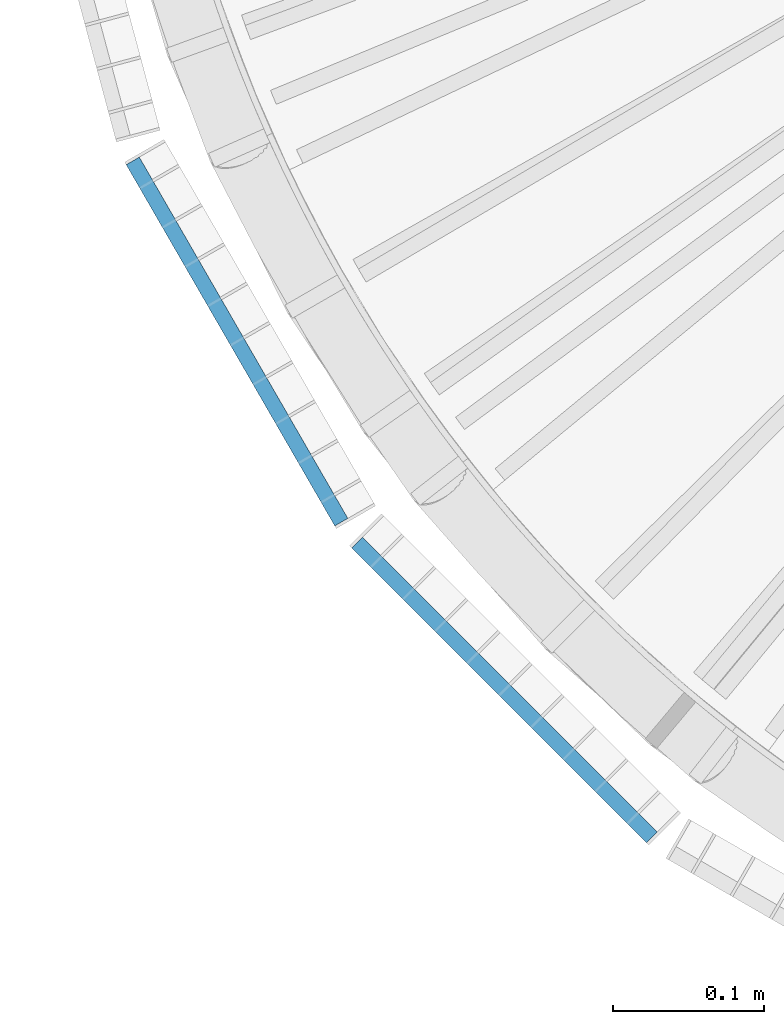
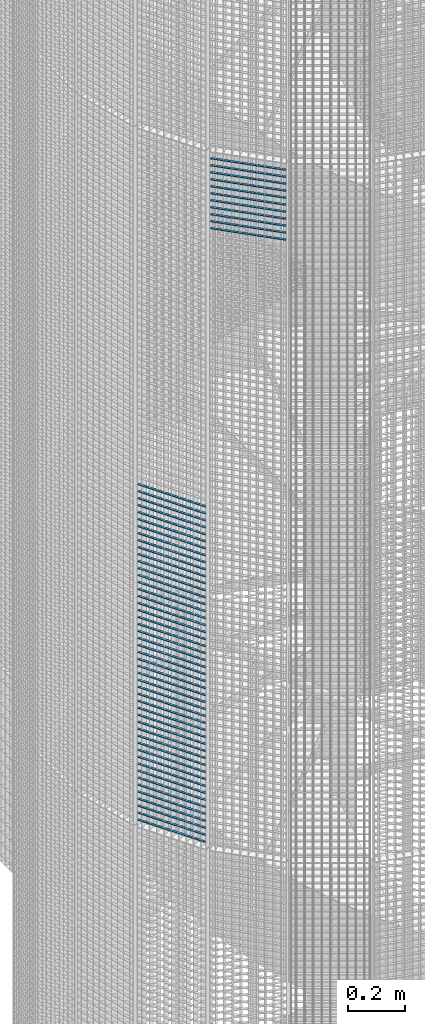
# One storey, part 351 of 1148: 60 beams, 2 elements without a shape of their own.
"""IFC2X3 building model written with IfcOpenShell, lengths in millimetres."""

from ifc_helpers import new_model, si_unit, frame, origin_with_axes, origin_2d_with_axis, place, context, subcontext, project, spatial, rectangle, extrude, material, type_object, element, aggregate, save


model = new_model("IFC2X3")

# Units and contexts
model_context = context("Model", 3, precision=1e-05, world=origin_with_axes())
body_context = subcontext(model_context, "Body", "Model", "MODEL_VIEW")
ifc_project = project(units=[si_unit("LENGTHUNIT", "METRE", prefix="MILLI"), si_unit("AREAUNIT", "SQUARE_METRE"), si_unit("VOLUMEUNIT", "CUBIC_METRE"), si_unit("MASSUNIT", "GRAM", prefix="KILO"), si_unit("TIMEUNIT", "SECOND"), si_unit("PLANEANGLEUNIT", "RADIAN"), si_unit("SOLIDANGLEUNIT", "STERADIAN"), si_unit("THERMODYNAMICTEMPERATUREUNIT", "DEGREE_CELSIUS"), si_unit("LUMINOUSINTENSITYUNIT", "LUMEN")], contexts=[model_context])

# Site, building, storey
site_placement = place(None, origin_with_axes())
site = spatial("IfcSite", under=ifc_project, at=site_placement, Name="Undefined", CompositionType="ELEMENT")
building_placement = place(site_placement, origin_with_axes())
building = spatial("IfcBuilding", under=site, at=building_placement, Name="Undefined", CompositionType="ELEMENT")
storey_placement = place(building_placement, origin_with_axes())
storey = spatial("IfcBuildingStorey", under=building, at=storey_placement, Name="Undefined", CompositionType="ELEMENT", Elevation=0.0)

# Assembly, beams
assembly_1_placement = place(storey_placement, origin_with_axes())
assembly_1 = element("IfcElementAssembly", 1, at=assembly_1_placement, inside=storey, Name="BORDURE", AssemblyPlace="NOTDEFINED", PredefinedType="NOTDEFINED")
ifc_material = material(Name="STEEL/S235JR")
beam_type = type_object("IfcBeamType", Name="PL2*10", PredefinedType="NOTDEFINED")
beam_1_placement = place(assembly_1_placement, frame((20704.6960350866, -676.248044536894, 7470.0), z_axis=(-0.866025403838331, -0.499999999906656, 0.0), x_axis=(-0.49999999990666, 0.866025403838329, 0.0)))
beam_1 = element("IfcBeam", 2, at=beam_1_placement, type_object=beam_type, material=ifc_material, Name="ENTRETOISE", context=body_context, shape_type="SweptSolid", body=[
    extrude(rectangle(XDim=2.0, YDim=10.0, at=origin_2d_with_axis()), frame((275.999999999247, 9.09494701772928e-13, 1.53210777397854e-14), z_axis=(-1.0, 0.0, 0.0), x_axis=(0.0, -1.0, 0.0)), (0.0, 0.0, 1.0), 276.0),
])
beam_2_placement = place(assembly_1_placement, frame((20704.6960350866, -676.248044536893, 7440.0), z_axis=(-0.866025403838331, -0.499999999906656, 0.0), x_axis=(-0.49999999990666, 0.866025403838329, 0.0)))
beam_2 = element("IfcBeam", 3, at=beam_2_placement, type_object=beam_type, material=ifc_material, Name="ENTRETOISE", context=body_context, shape_type="SweptSolid", body=[
    extrude(rectangle(XDim=2.0, YDim=10.0, at=origin_2d_with_axis()), frame((275.999999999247, 9.09494701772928e-13, 1.53210777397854e-14), z_axis=(-1.0, 0.0, 0.0), x_axis=(0.0, -1.0, 0.0)), (0.0, 0.0, 1.0), 276.0),
])
beam_3_placement = place(assembly_1_placement, frame((20704.6960350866, -676.248044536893, 7410.0), z_axis=(-0.866025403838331, -0.499999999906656, 0.0), x_axis=(-0.49999999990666, 0.866025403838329, 0.0)))
beam_3 = element("IfcBeam", 4, at=beam_3_placement, type_object=beam_type, material=ifc_material, Name="ENTRETOISE", context=body_context, shape_type="SweptSolid", body=[
    extrude(rectangle(XDim=2.0, YDim=10.0, at=origin_2d_with_axis()), frame((275.999999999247, 9.09494701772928e-13, 1.53210777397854e-14), z_axis=(-1.0, 0.0, 0.0), x_axis=(0.0, -1.0, 0.0)), (0.0, 0.0, 1.0), 276.0),
])
beam_4_placement = place(assembly_1_placement, frame((20704.6960350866, -676.248044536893, 7380.0), z_axis=(-0.866025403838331, -0.499999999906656, 0.0), x_axis=(-0.49999999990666, 0.866025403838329, 0.0)))
beam_4 = element("IfcBeam", 5, at=beam_4_placement, type_object=beam_type, material=ifc_material, Name="ENTRETOISE", context=body_context, shape_type="SweptSolid", body=[
    extrude(rectangle(XDim=2.0, YDim=10.0, at=origin_2d_with_axis()), frame((275.999999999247, 9.09494701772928e-13, 1.53210777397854e-14), z_axis=(-1.0, 0.0, 0.0), x_axis=(0.0, -1.0, 0.0)), (0.0, 0.0, 1.0), 276.0),
])
beam_5_placement = place(assembly_1_placement, frame((20704.6960350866, -676.248044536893, 7350.0), z_axis=(-0.866025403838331, -0.499999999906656, 0.0), x_axis=(-0.49999999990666, 0.866025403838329, 0.0)))
beam_5 = element("IfcBeam", 6, at=beam_5_placement, type_object=beam_type, material=ifc_material, Name="ENTRETOISE", context=body_context, shape_type="SweptSolid", body=[
    extrude(rectangle(XDim=2.0, YDim=10.0, at=origin_2d_with_axis()), frame((275.999999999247, 9.09494701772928e-13, 1.53210777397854e-14), z_axis=(-1.0, 0.0, 0.0), x_axis=(0.0, -1.0, 0.0)), (0.0, 0.0, 1.0), 276.0),
])
beam_6_placement = place(assembly_1_placement, frame((20704.6960350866, -676.248044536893, 7320.0), z_axis=(-0.866025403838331, -0.499999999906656, 0.0), x_axis=(-0.49999999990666, 0.866025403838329, 0.0)))
beam_6 = element("IfcBeam", 7, at=beam_6_placement, type_object=beam_type, material=ifc_material, Name="ENTRETOISE", context=body_context, shape_type="SweptSolid", body=[
    extrude(rectangle(XDim=2.0, YDim=10.0, at=origin_2d_with_axis()), frame((275.999999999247, 9.09494701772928e-13, 1.53210777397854e-14), z_axis=(-1.0, 0.0, 0.0), x_axis=(0.0, -1.0, 0.0)), (0.0, 0.0, 1.0), 276.0),
])
beam_7_placement = place(assembly_1_placement, frame((20704.6960350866, -676.248044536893, 7290.0), z_axis=(-0.866025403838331, -0.499999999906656, 0.0), x_axis=(-0.49999999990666, 0.866025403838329, 0.0)))
beam_7 = element("IfcBeam", 8, at=beam_7_placement, type_object=beam_type, material=ifc_material, Name="ENTRETOISE", context=body_context, shape_type="SweptSolid", body=[
    extrude(rectangle(XDim=2.0, YDim=10.0, at=origin_2d_with_axis()), frame((275.999999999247, 9.09494701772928e-13, 1.53210777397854e-14), z_axis=(-1.0, 0.0, 0.0), x_axis=(0.0, -1.0, 0.0)), (0.0, 0.0, 1.0), 276.0),
])
beam_8_placement = place(assembly_1_placement, frame((20704.6960350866, -676.248044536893, 7260.0), z_axis=(-0.866025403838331, -0.499999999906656, 0.0), x_axis=(-0.49999999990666, 0.866025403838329, 0.0)))
beam_8 = element("IfcBeam", 9, at=beam_8_placement, type_object=beam_type, material=ifc_material, Name="ENTRETOISE", context=body_context, shape_type="SweptSolid", body=[
    extrude(rectangle(XDim=2.0, YDim=10.0, at=origin_2d_with_axis()), frame((275.999999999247, 9.09494701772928e-13, 1.53210777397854e-14), z_axis=(-1.0, 0.0, 0.0), x_axis=(0.0, -1.0, 0.0)), (0.0, 0.0, 1.0), 276.0),
])
beam_9_placement = place(assembly_1_placement, frame((20704.6960350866, -676.248044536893, 7230.0), z_axis=(-0.866025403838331, -0.499999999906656, 0.0), x_axis=(-0.49999999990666, 0.866025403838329, 0.0)))
beam_9 = element("IfcBeam", 10, at=beam_9_placement, type_object=beam_type, material=ifc_material, Name="ENTRETOISE", context=body_context, shape_type="SweptSolid", body=[
    extrude(rectangle(XDim=2.0, YDim=10.0, at=origin_2d_with_axis()), frame((275.999999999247, 9.09494701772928e-13, 1.53210777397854e-14), z_axis=(-1.0, 0.0, 0.0), x_axis=(0.0, -1.0, 0.0)), (0.0, 0.0, 1.0), 276.0),
])
beam_10_placement = place(assembly_1_placement, frame((20704.6960350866, -676.248044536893, 7200.0), z_axis=(-0.866025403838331, -0.499999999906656, 0.0), x_axis=(-0.49999999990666, 0.866025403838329, 0.0)))
beam_10 = element("IfcBeam", 11, at=beam_10_placement, type_object=beam_type, material=ifc_material, Name="ENTRETOISE", context=body_context, shape_type="SweptSolid", body=[
    extrude(rectangle(XDim=2.0, YDim=10.0, at=origin_2d_with_axis()), frame((275.999999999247, 9.09494701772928e-13, 1.53210777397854e-14), z_axis=(-1.0, 0.0, 0.0), x_axis=(0.0, -1.0, 0.0)), (0.0, 0.0, 1.0), 276.0),
])
beam_11_placement = place(assembly_1_placement, frame((20704.6960350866, -676.248044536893, 7170.0), z_axis=(-0.866025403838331, -0.499999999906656, 0.0), x_axis=(-0.49999999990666, 0.866025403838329, 0.0)))
beam_11 = element("IfcBeam", 12, at=beam_11_placement, type_object=beam_type, material=ifc_material, Name="ENTRETOISE", context=body_context, shape_type="SweptSolid", body=[
    extrude(rectangle(XDim=2.0, YDim=10.0, at=origin_2d_with_axis()), frame((275.999999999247, 9.09494701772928e-13, 1.53210777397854e-14), z_axis=(-1.0, 0.0, 0.0), x_axis=(0.0, -1.0, 0.0)), (0.0, 0.0, 1.0), 276.0),
])
beam_12_placement = place(assembly_1_placement, frame((20704.6960350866, -676.248044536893, 7140.0), z_axis=(-0.866025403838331, -0.499999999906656, 0.0), x_axis=(-0.49999999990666, 0.866025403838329, 0.0)))
beam_12 = element("IfcBeam", 13, at=beam_12_placement, type_object=beam_type, material=ifc_material, Name="ENTRETOISE", context=body_context, shape_type="SweptSolid", body=[
    extrude(rectangle(XDim=2.0, YDim=10.0, at=origin_2d_with_axis()), frame((275.999999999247, 9.09494701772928e-13, 1.53210777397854e-14), z_axis=(-1.0, 0.0, 0.0), x_axis=(0.0, -1.0, 0.0)), (0.0, 0.0, 1.0), 276.0),
])
beam_13_placement = place(assembly_1_placement, frame((20704.6960350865, -676.248044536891, 6720.0), z_axis=(-0.866025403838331, -0.499999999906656, 0.0), x_axis=(-0.49999999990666, 0.866025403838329, 0.0)))
beam_13 = element("IfcBeam", 14, at=beam_13_placement, type_object=beam_type, material=ifc_material, Name="ENTRETOISE", context=body_context, shape_type="SweptSolid", body=[
    extrude(rectangle(XDim=2.0, YDim=10.0, at=origin_2d_with_axis()), frame((275.999999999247, 9.09494701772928e-13, 1.53210777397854e-14), z_axis=(-1.0, 0.0, 0.0), x_axis=(0.0, -1.0, 0.0)), (0.0, 0.0, 1.0), 276.0),
])
beam_14_placement = place(assembly_1_placement, frame((20704.6960350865, -676.248044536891, 6690.0), z_axis=(-0.866025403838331, -0.499999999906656, 0.0), x_axis=(-0.49999999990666, 0.866025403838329, 0.0)))
beam_14 = element("IfcBeam", 15, at=beam_14_placement, type_object=beam_type, material=ifc_material, Name="ENTRETOISE", context=body_context, shape_type="SweptSolid", body=[
    extrude(rectangle(XDim=2.0, YDim=10.0, at=origin_2d_with_axis()), frame((275.999999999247, 9.09494701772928e-13, 1.53210777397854e-14), z_axis=(-1.0, 0.0, 0.0), x_axis=(0.0, -1.0, 0.0)), (0.0, 0.0, 1.0), 276.0),
])
beam_15_placement = place(assembly_1_placement, frame((20704.6960350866, -676.248044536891, 6750.0), z_axis=(-0.866025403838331, -0.499999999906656, 0.0), x_axis=(-0.49999999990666, 0.866025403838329, 0.0)))
beam_15 = element("IfcBeam", 16, at=beam_15_placement, type_object=beam_type, material=ifc_material, Name="ENTRETOISE", context=body_context, shape_type="SweptSolid", body=[
    extrude(rectangle(XDim=2.0, YDim=10.0, at=origin_2d_with_axis()), frame((275.999999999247, 9.09494701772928e-13, 1.53210777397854e-14), z_axis=(-1.0, 0.0, 0.0), x_axis=(0.0, -1.0, 0.0)), (0.0, 0.0, 1.0), 276.0),
])
beam_16_placement = place(assembly_1_placement, frame((20704.6960350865, -676.248044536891, 6660.0), z_axis=(-0.866025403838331, -0.499999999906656, 0.0), x_axis=(-0.49999999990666, 0.866025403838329, 0.0)))
beam_16 = element("IfcBeam", 17, at=beam_16_placement, type_object=beam_type, material=ifc_material, Name="ENTRETOISE", context=body_context, shape_type="SweptSolid", body=[
    extrude(rectangle(XDim=2.0, YDim=10.0, at=origin_2d_with_axis()), frame((275.999999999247, 9.09494701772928e-13, 1.53210777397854e-14), z_axis=(-1.0, 0.0, 0.0), x_axis=(0.0, -1.0, 0.0)), (0.0, 0.0, 1.0), 276.0),
])
beam_17_placement = place(assembly_1_placement, frame((20704.6960350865, -676.248044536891, 6630.0), z_axis=(-0.866025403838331, -0.499999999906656, 0.0), x_axis=(-0.49999999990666, 0.866025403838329, 0.0)))
beam_17 = element("IfcBeam", 18, at=beam_17_placement, type_object=beam_type, material=ifc_material, Name="ENTRETOISE", context=body_context, shape_type="SweptSolid", body=[
    extrude(rectangle(XDim=2.0, YDim=10.0, at=origin_2d_with_axis()), frame((275.999999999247, 9.09494701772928e-13, 1.53210777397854e-14), z_axis=(-1.0, 0.0, 0.0), x_axis=(0.0, -1.0, 0.0)), (0.0, 0.0, 1.0), 276.0),
])
beam_18_placement = place(assembly_1_placement, frame((20704.6960350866, -676.248044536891, 6780.0), z_axis=(-0.866025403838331, -0.499999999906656, 0.0), x_axis=(-0.49999999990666, 0.866025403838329, 0.0)))
beam_18 = element("IfcBeam", 19, at=beam_18_placement, type_object=beam_type, material=ifc_material, Name="ENTRETOISE", context=body_context, shape_type="SweptSolid", body=[
    extrude(rectangle(XDim=2.0, YDim=10.0, at=origin_2d_with_axis()), frame((275.999999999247, 9.09494701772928e-13, 1.53210777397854e-14), z_axis=(-1.0, 0.0, 0.0), x_axis=(0.0, -1.0, 0.0)), (0.0, 0.0, 1.0), 276.0),
])
beam_19_placement = place(assembly_1_placement, frame((20704.6960350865, -676.248044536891, 6600.0), z_axis=(-0.866025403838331, -0.499999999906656, 0.0), x_axis=(-0.49999999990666, 0.866025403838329, 0.0)))
beam_19 = element("IfcBeam", 20, at=beam_19_placement, type_object=beam_type, material=ifc_material, Name="ENTRETOISE", context=body_context, shape_type="SweptSolid", body=[
    extrude(rectangle(XDim=2.0, YDim=10.0, at=origin_2d_with_axis()), frame((275.999999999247, 9.09494701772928e-13, 1.53210777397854e-14), z_axis=(-1.0, 0.0, 0.0), x_axis=(0.0, -1.0, 0.0)), (0.0, 0.0, 1.0), 276.0),
])
beam_20_placement = place(assembly_1_placement, frame((20704.6960350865, -676.248044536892, 6810.0), z_axis=(-0.866025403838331, -0.499999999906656, 0.0), x_axis=(-0.49999999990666, 0.866025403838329, 0.0)))
beam_20 = element("IfcBeam", 21, at=beam_20_placement, type_object=beam_type, material=ifc_material, Name="ENTRETOISE", context=body_context, shape_type="SweptSolid", body=[
    extrude(rectangle(XDim=2.0, YDim=10.0, at=origin_2d_with_axis()), frame((275.999999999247, 9.09494701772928e-13, 1.53210777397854e-14), z_axis=(-1.0, 0.0, 0.0), x_axis=(0.0, -1.0, 0.0)), (0.0, 0.0, 1.0), 276.0),
])
beam_21_placement = place(assembly_1_placement, frame((20704.6960350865, -676.248044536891, 6570.0), z_axis=(-0.866025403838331, -0.499999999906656, 0.0), x_axis=(-0.49999999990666, 0.866025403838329, 0.0)))
beam_21 = element("IfcBeam", 22, at=beam_21_placement, type_object=beam_type, material=ifc_material, Name="ENTRETOISE", context=body_context, shape_type="SweptSolid", body=[
    extrude(rectangle(XDim=2.0, YDim=10.0, at=origin_2d_with_axis()), frame((275.999999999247, 9.09494701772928e-13, 1.53210777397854e-14), z_axis=(-1.0, 0.0, 0.0), x_axis=(0.0, -1.0, 0.0)), (0.0, 0.0, 1.0), 276.0),
])
beam_22_placement = place(assembly_1_placement, frame((20704.6960350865, -676.248044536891, 6540.0), z_axis=(-0.866025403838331, -0.499999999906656, 0.0), x_axis=(-0.49999999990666, 0.866025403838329, 0.0)))
beam_22 = element("IfcBeam", 23, at=beam_22_placement, type_object=beam_type, material=ifc_material, Name="ENTRETOISE", context=body_context, shape_type="SweptSolid", body=[
    extrude(rectangle(XDim=2.0, YDim=10.0, at=origin_2d_with_axis()), frame((275.999999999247, 9.09494701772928e-13, 1.53210777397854e-14), z_axis=(-1.0, 0.0, 0.0), x_axis=(0.0, -1.0, 0.0)), (0.0, 0.0, 1.0), 276.0),
])
beam_23_placement = place(assembly_1_placement, frame((20704.6960350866, -676.248044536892, 6840.0), z_axis=(-0.866025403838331, -0.499999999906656, 0.0), x_axis=(-0.49999999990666, 0.866025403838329, 0.0)))
beam_23 = element("IfcBeam", 24, at=beam_23_placement, type_object=beam_type, material=ifc_material, Name="ENTRETOISE", context=body_context, shape_type="SweptSolid", body=[
    extrude(rectangle(XDim=2.0, YDim=10.0, at=origin_2d_with_axis()), frame((275.999999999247, 9.09494701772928e-13, 1.53210777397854e-14), z_axis=(-1.0, 0.0, 0.0), x_axis=(0.0, -1.0, 0.0)), (0.0, 0.0, 1.0), 276.0),
])
beam_24_placement = place(assembly_1_placement, frame((20704.6960350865, -676.248044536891, 6510.0), z_axis=(-0.866025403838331, -0.499999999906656, 0.0), x_axis=(-0.49999999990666, 0.866025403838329, 0.0)))
beam_24 = element("IfcBeam", 25, at=beam_24_placement, type_object=beam_type, material=ifc_material, Name="ENTRETOISE", context=body_context, shape_type="SweptSolid", body=[
    extrude(rectangle(XDim=2.0, YDim=10.0, at=origin_2d_with_axis()), frame((275.999999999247, 9.09494701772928e-13, 1.53210777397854e-14), z_axis=(-1.0, 0.0, 0.0), x_axis=(0.0, -1.0, 0.0)), (0.0, 0.0, 1.0), 276.0),
])
beam_25_placement = place(assembly_1_placement, frame((20704.6960350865, -676.248044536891, 6480.0), z_axis=(-0.866025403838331, -0.499999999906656, 0.0), x_axis=(-0.49999999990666, 0.866025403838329, 0.0)))
beam_25 = element("IfcBeam", 26, at=beam_25_placement, type_object=beam_type, material=ifc_material, Name="ENTRETOISE", context=body_context, shape_type="SweptSolid", body=[
    extrude(rectangle(XDim=2.0, YDim=10.0, at=origin_2d_with_axis()), frame((275.999999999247, 9.09494701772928e-13, 1.53210777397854e-14), z_axis=(-1.0, 0.0, 0.0), x_axis=(0.0, -1.0, 0.0)), (0.0, 0.0, 1.0), 276.0),
])
beam_26_placement = place(assembly_1_placement, frame((20704.6960350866, -676.248044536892, 6870.0), z_axis=(-0.866025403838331, -0.499999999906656, 0.0), x_axis=(-0.49999999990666, 0.866025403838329, 0.0)))
beam_26 = element("IfcBeam", 27, at=beam_26_placement, type_object=beam_type, material=ifc_material, Name="ENTRETOISE", context=body_context, shape_type="SweptSolid", body=[
    extrude(rectangle(XDim=2.0, YDim=10.0, at=origin_2d_with_axis()), frame((275.999999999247, 9.09494701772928e-13, 1.53210777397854e-14), z_axis=(-1.0, 0.0, 0.0), x_axis=(0.0, -1.0, 0.0)), (0.0, 0.0, 1.0), 276.0),
])
beam_27_placement = place(assembly_1_placement, frame((20704.6960350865, -676.248044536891, 6450.0), z_axis=(-0.866025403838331, -0.499999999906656, 0.0), x_axis=(-0.49999999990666, 0.866025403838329, 0.0)))
beam_27 = element("IfcBeam", 28, at=beam_27_placement, type_object=beam_type, material=ifc_material, Name="ENTRETOISE", context=body_context, shape_type="SweptSolid", body=[
    extrude(rectangle(XDim=2.0, YDim=10.0, at=origin_2d_with_axis()), frame((275.999999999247, 9.09494701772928e-13, 1.53210777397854e-14), z_axis=(-1.0, 0.0, 0.0), x_axis=(0.0, -1.0, 0.0)), (0.0, 0.0, 1.0), 276.0),
])
beam_28_placement = place(assembly_1_placement, frame((20704.6960350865, -676.24804453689, 6420.0), z_axis=(-0.866025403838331, -0.499999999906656, 0.0), x_axis=(-0.49999999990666, 0.866025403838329, 0.0)))
beam_28 = element("IfcBeam", 29, at=beam_28_placement, type_object=beam_type, material=ifc_material, Name="ENTRETOISE", context=body_context, shape_type="SweptSolid", body=[
    extrude(rectangle(XDim=2.0, YDim=10.0, at=origin_2d_with_axis()), frame((275.999999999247, 9.09494701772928e-13, 1.53210777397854e-14), z_axis=(-1.0, 0.0, 0.0), x_axis=(0.0, -1.0, 0.0)), (0.0, 0.0, 1.0), 276.0),
])
beam_29_placement = place(assembly_1_placement, frame((20704.6960350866, -676.248044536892, 6900.0), z_axis=(-0.866025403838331, -0.499999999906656, 0.0), x_axis=(-0.49999999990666, 0.866025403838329, 0.0)))
beam_29 = element("IfcBeam", 30, at=beam_29_placement, type_object=beam_type, material=ifc_material, Name="ENTRETOISE", context=body_context, shape_type="SweptSolid", body=[
    extrude(rectangle(XDim=2.0, YDim=10.0, at=origin_2d_with_axis()), frame((275.999999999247, 9.09494701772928e-13, 1.53210777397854e-14), z_axis=(-1.0, 0.0, 0.0), x_axis=(0.0, -1.0, 0.0)), (0.0, 0.0, 1.0), 276.0),
])
beam_30_placement = place(assembly_1_placement, frame((20704.6960350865, -676.24804453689, 6390.0), z_axis=(-0.866025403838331, -0.499999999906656, 0.0), x_axis=(-0.49999999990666, 0.866025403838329, 0.0)))
beam_30 = element("IfcBeam", 31, at=beam_30_placement, type_object=beam_type, material=ifc_material, Name="ENTRETOISE", context=body_context, shape_type="SweptSolid", body=[
    extrude(rectangle(XDim=2.0, YDim=10.0, at=origin_2d_with_axis()), frame((275.999999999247, 9.09494701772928e-13, 1.53210777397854e-14), z_axis=(-1.0, 0.0, 0.0), x_axis=(0.0, -1.0, 0.0)), (0.0, 0.0, 1.0), 276.0),
])
beam_31_placement = place(assembly_1_placement, frame((20704.6960350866, -676.248044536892, 6930.0), z_axis=(-0.866025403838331, -0.499999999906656, 0.0), x_axis=(-0.49999999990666, 0.866025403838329, 0.0)))
beam_31 = element("IfcBeam", 32, at=beam_31_placement, type_object=beam_type, material=ifc_material, Name="ENTRETOISE", context=body_context, shape_type="SweptSolid", body=[
    extrude(rectangle(XDim=2.0, YDim=10.0, at=origin_2d_with_axis()), frame((275.999999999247, 9.09494701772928e-13, 1.53210777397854e-14), z_axis=(-1.0, 0.0, 0.0), x_axis=(0.0, -1.0, 0.0)), (0.0, 0.0, 1.0), 276.0),
])
beam_32_placement = place(assembly_1_placement, frame((20704.6960350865, -676.24804453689, 6360.0), z_axis=(-0.866025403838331, -0.499999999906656, 0.0), x_axis=(-0.49999999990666, 0.866025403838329, 0.0)))
beam_32 = element("IfcBeam", 33, at=beam_32_placement, type_object=beam_type, material=ifc_material, Name="ENTRETOISE", context=body_context, shape_type="SweptSolid", body=[
    extrude(rectangle(XDim=2.0, YDim=10.0, at=origin_2d_with_axis()), frame((275.999999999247, 9.09494701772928e-13, 1.53210777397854e-14), z_axis=(-1.0, 0.0, 0.0), x_axis=(0.0, -1.0, 0.0)), (0.0, 0.0, 1.0), 276.0),
])
beam_33_placement = place(assembly_1_placement, frame((20704.6960350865, -676.24804453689, 6330.0), z_axis=(-0.866025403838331, -0.499999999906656, 0.0), x_axis=(-0.49999999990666, 0.866025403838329, 0.0)))
beam_33 = element("IfcBeam", 34, at=beam_33_placement, type_object=beam_type, material=ifc_material, Name="ENTRETOISE", context=body_context, shape_type="SweptSolid", body=[
    extrude(rectangle(XDim=2.0, YDim=10.0, at=origin_2d_with_axis()), frame((275.999999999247, 9.09494701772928e-13, 1.53210777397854e-14), z_axis=(-1.0, 0.0, 0.0), x_axis=(0.0, -1.0, 0.0)), (0.0, 0.0, 1.0), 276.0),
])
beam_34_placement = place(assembly_1_placement, frame((20704.6960350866, -676.248044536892, 6960.0), z_axis=(-0.866025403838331, -0.499999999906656, 0.0), x_axis=(-0.49999999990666, 0.866025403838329, 0.0)))
beam_34 = element("IfcBeam", 35, at=beam_34_placement, type_object=beam_type, material=ifc_material, Name="ENTRETOISE", context=body_context, shape_type="SweptSolid", body=[
    extrude(rectangle(XDim=2.0, YDim=10.0, at=origin_2d_with_axis()), frame((275.999999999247, 9.09494701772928e-13, 1.53210777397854e-14), z_axis=(-1.0, 0.0, 0.0), x_axis=(0.0, -1.0, 0.0)), (0.0, 0.0, 1.0), 276.0),
])
beam_35_placement = place(assembly_1_placement, frame((20704.6960350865, -676.24804453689, 6300.0), z_axis=(-0.866025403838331, -0.499999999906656, 0.0), x_axis=(-0.49999999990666, 0.866025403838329, 0.0)))
beam_35 = element("IfcBeam", 36, at=beam_35_placement, type_object=beam_type, material=ifc_material, Name="ENTRETOISE", context=body_context, shape_type="SweptSolid", body=[
    extrude(rectangle(XDim=2.0, YDim=10.0, at=origin_2d_with_axis()), frame((275.999999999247, 9.09494701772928e-13, 1.53210777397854e-14), z_axis=(-1.0, 0.0, 0.0), x_axis=(0.0, -1.0, 0.0)), (0.0, 0.0, 1.0), 276.0),
])
beam_36_placement = place(assembly_1_placement, frame((20704.6960350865, -676.24804453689, 6270.0), z_axis=(-0.866025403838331, -0.499999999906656, 0.0), x_axis=(-0.49999999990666, 0.866025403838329, 0.0)))
beam_36 = element("IfcBeam", 37, at=beam_36_placement, type_object=beam_type, material=ifc_material, Name="ENTRETOISE", context=body_context, shape_type="SweptSolid", body=[
    extrude(rectangle(XDim=2.0, YDim=10.0, at=origin_2d_with_axis()), frame((275.999999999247, 9.09494701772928e-13, 1.53210777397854e-14), z_axis=(-1.0, 0.0, 0.0), x_axis=(0.0, -1.0, 0.0)), (0.0, 0.0, 1.0), 276.0),
])
beam_37_placement = place(assembly_1_placement, frame((20704.6960350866, -676.248044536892, 6990.0), z_axis=(-0.866025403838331, -0.499999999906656, 0.0), x_axis=(-0.49999999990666, 0.866025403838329, 0.0)))
beam_37 = element("IfcBeam", 38, at=beam_37_placement, type_object=beam_type, material=ifc_material, Name="ENTRETOISE", context=body_context, shape_type="SweptSolid", body=[
    extrude(rectangle(XDim=2.0, YDim=10.0, at=origin_2d_with_axis()), frame((275.999999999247, 9.09494701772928e-13, 1.53210777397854e-14), z_axis=(-1.0, 0.0, 0.0), x_axis=(0.0, -1.0, 0.0)), (0.0, 0.0, 1.0), 276.0),
])
beam_38_placement = place(assembly_1_placement, frame((20704.6960350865, -676.24804453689, 6240.0), z_axis=(-0.866025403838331, -0.499999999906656, 0.0), x_axis=(-0.49999999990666, 0.866025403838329, 0.0)))
beam_38 = element("IfcBeam", 39, at=beam_38_placement, type_object=beam_type, material=ifc_material, Name="ENTRETOISE", context=body_context, shape_type="SweptSolid", body=[
    extrude(rectangle(XDim=2.0, YDim=10.0, at=origin_2d_with_axis()), frame((275.999999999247, 9.09494701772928e-13, 1.53210777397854e-14), z_axis=(-1.0, 0.0, 0.0), x_axis=(0.0, -1.0, 0.0)), (0.0, 0.0, 1.0), 276.0),
])
beam_39_placement = place(assembly_1_placement, frame((20704.6960350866, -676.248044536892, 7020.0), z_axis=(-0.866025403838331, -0.499999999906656, 0.0), x_axis=(-0.49999999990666, 0.866025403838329, 0.0)))
beam_39 = element("IfcBeam", 40, at=beam_39_placement, type_object=beam_type, material=ifc_material, Name="ENTRETOISE", context=body_context, shape_type="SweptSolid", body=[
    extrude(rectangle(XDim=2.0, YDim=10.0, at=origin_2d_with_axis()), frame((275.999999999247, 9.09494701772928e-13, 1.53210777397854e-14), z_axis=(-1.0, 0.0, 0.0), x_axis=(0.0, -1.0, 0.0)), (0.0, 0.0, 1.0), 276.0),
])
beam_40_placement = place(assembly_1_placement, frame((20704.6960350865, -676.24804453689, 6210.0), z_axis=(-0.866025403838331, -0.499999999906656, 0.0), x_axis=(-0.49999999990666, 0.866025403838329, 0.0)))
beam_40 = element("IfcBeam", 41, at=beam_40_placement, type_object=beam_type, material=ifc_material, Name="ENTRETOISE", context=body_context, shape_type="SweptSolid", body=[
    extrude(rectangle(XDim=2.0, YDim=10.0, at=origin_2d_with_axis()), frame((275.999999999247, 9.09494701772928e-13, 1.53210777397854e-14), z_axis=(-1.0, 0.0, 0.0), x_axis=(0.0, -1.0, 0.0)), (0.0, 0.0, 1.0), 276.0),
])
beam_41_placement = place(assembly_1_placement, frame((20704.6960350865, -676.24804453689, 6180.0), z_axis=(-0.866025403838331, -0.499999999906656, 0.0), x_axis=(-0.49999999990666, 0.866025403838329, 0.0)))
beam_41 = element("IfcBeam", 42, at=beam_41_placement, type_object=beam_type, material=ifc_material, Name="ENTRETOISE", context=body_context, shape_type="SweptSolid", body=[
    extrude(rectangle(XDim=2.0, YDim=10.0, at=origin_2d_with_axis()), frame((275.999999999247, 9.09494701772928e-13, 1.53210777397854e-14), z_axis=(-1.0, 0.0, 0.0), x_axis=(0.0, -1.0, 0.0)), (0.0, 0.0, 1.0), 276.0),
])
beam_42_placement = place(assembly_1_placement, frame((20704.6960350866, -676.248044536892, 7050.0), z_axis=(-0.866025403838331, -0.499999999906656, 0.0), x_axis=(-0.49999999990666, 0.866025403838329, 0.0)))
beam_42 = element("IfcBeam", 43, at=beam_42_placement, type_object=beam_type, material=ifc_material, Name="ENTRETOISE", context=body_context, shape_type="SweptSolid", body=[
    extrude(rectangle(XDim=2.0, YDim=10.0, at=origin_2d_with_axis()), frame((275.999999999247, 9.09494701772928e-13, 1.53210777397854e-14), z_axis=(-1.0, 0.0, 0.0), x_axis=(0.0, -1.0, 0.0)), (0.0, 0.0, 1.0), 276.0),
])
beam_43_placement = place(assembly_1_placement, frame((20704.6960350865, -676.24804453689, 6150.0), z_axis=(-0.866025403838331, -0.499999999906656, 0.0), x_axis=(-0.49999999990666, 0.866025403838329, 0.0)))
beam_43 = element("IfcBeam", 44, at=beam_43_placement, type_object=beam_type, material=ifc_material, Name="ENTRETOISE", context=body_context, shape_type="SweptSolid", body=[
    extrude(rectangle(XDim=2.0, YDim=10.0, at=origin_2d_with_axis()), frame((275.999999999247, 9.09494701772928e-13, 1.53210777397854e-14), z_axis=(-1.0, 0.0, 0.0), x_axis=(0.0, -1.0, 0.0)), (0.0, 0.0, 1.0), 276.0),
])
beam_44_placement = place(assembly_1_placement, frame((20704.6960350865, -676.24804453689, 6120.0), z_axis=(-0.866025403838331, -0.499999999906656, 0.0), x_axis=(-0.49999999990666, 0.866025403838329, 0.0)))
beam_44 = element("IfcBeam", 45, at=beam_44_placement, type_object=beam_type, material=ifc_material, Name="ENTRETOISE", context=body_context, shape_type="SweptSolid", body=[
    extrude(rectangle(XDim=2.0, YDim=10.0, at=origin_2d_with_axis()), frame((275.999999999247, 9.09494701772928e-13, 1.53210777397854e-14), z_axis=(-1.0, 0.0, 0.0), x_axis=(0.0, -1.0, 0.0)), (0.0, 0.0, 1.0), 276.0),
])
beam_45_placement = place(assembly_1_placement, frame((20704.6960350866, -676.248044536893, 7080.0), z_axis=(-0.866025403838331, -0.499999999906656, 0.0), x_axis=(-0.49999999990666, 0.866025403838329, 0.0)))
beam_45 = element("IfcBeam", 46, at=beam_45_placement, type_object=beam_type, material=ifc_material, Name="ENTRETOISE", context=body_context, shape_type="SweptSolid", body=[
    extrude(rectangle(XDim=2.0, YDim=10.0, at=origin_2d_with_axis()), frame((275.999999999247, 9.09494701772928e-13, 1.53210777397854e-14), z_axis=(-1.0, 0.0, 0.0), x_axis=(0.0, -1.0, 0.0)), (0.0, 0.0, 1.0), 276.0),
])
beam_46_placement = place(assembly_1_placement, frame((20704.6960350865, -676.248044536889, 6090.0), z_axis=(-0.866025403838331, -0.499999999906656, 0.0), x_axis=(-0.49999999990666, 0.866025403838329, 0.0)))
beam_46 = element("IfcBeam", 47, at=beam_46_placement, type_object=beam_type, material=ifc_material, Name="ENTRETOISE", context=body_context, shape_type="SweptSolid", body=[
    extrude(rectangle(XDim=2.0, YDim=10.0, at=origin_2d_with_axis()), frame((275.999999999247, 9.09494701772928e-13, 1.53210777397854e-14), z_axis=(-1.0, 0.0, 0.0), x_axis=(0.0, -1.0, 0.0)), (0.0, 0.0, 1.0), 276.0),
])
beam_47_placement = place(assembly_1_placement, frame((20704.6960350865, -676.248044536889, 6060.0), z_axis=(-0.866025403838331, -0.499999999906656, 0.0), x_axis=(-0.49999999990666, 0.866025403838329, 0.0)))
beam_47 = element("IfcBeam", 48, at=beam_47_placement, type_object=beam_type, material=ifc_material, Name="ENTRETOISE", context=body_context, shape_type="SweptSolid", body=[
    extrude(rectangle(XDim=2.0, YDim=10.0, at=origin_2d_with_axis()), frame((275.999999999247, 9.09494701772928e-13, 1.53210777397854e-14), z_axis=(-1.0, 0.0, 0.0), x_axis=(0.0, -1.0, 0.0)), (0.0, 0.0, 1.0), 276.0),
])
beam_48_placement = place(assembly_1_placement, frame((20704.6960350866, -676.248044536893, 7110.0), z_axis=(-0.866025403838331, -0.499999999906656, 0.0), x_axis=(-0.49999999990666, 0.866025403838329, 0.0)))
beam_48 = element("IfcBeam", 49, at=beam_48_placement, type_object=beam_type, material=ifc_material, Name="ENTRETOISE", context=body_context, shape_type="SweptSolid", body=[
    extrude(rectangle(XDim=2.0, YDim=10.0, at=origin_2d_with_axis()), frame((275.999999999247, 9.09494701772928e-13, 1.53210777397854e-14), z_axis=(-1.0, 0.0, 0.0), x_axis=(0.0, -1.0, 0.0)), (0.0, 0.0, 1.0), 276.0),
])
beam_49_placement = place(assembly_1_placement, frame((20704.6960350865, -676.248044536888, 6030.0), z_axis=(-0.866025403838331, -0.499999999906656, 0.0), x_axis=(-0.49999999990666, 0.866025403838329, 0.0)))
beam_49 = element("IfcBeam", 50, at=beam_49_placement, type_object=beam_type, material=ifc_material, Name="ENTRETOISE", context=body_context, shape_type="SweptSolid", body=[
    extrude(rectangle(XDim=2.0, YDim=10.0, at=origin_2d_with_axis()), frame((275.999999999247, 9.09494701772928e-13, 1.53210777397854e-14), z_axis=(-1.0, 0.0, 0.0), x_axis=(0.0, -1.0, 0.0)), (0.0, 0.0, 1.0), 276.0),
])
aggregate(assembly_1, [beam_1, beam_2, beam_3, beam_4, beam_5, beam_6, beam_7, beam_8, beam_9, beam_10, beam_11, beam_12, beam_13, beam_14, beam_15, beam_16, beam_17, beam_18, beam_19, beam_20, beam_21, beam_22, beam_23, beam_24, beam_25, beam_26, beam_27, beam_28, beam_29, beam_30, beam_31, beam_32, beam_33, beam_34, beam_35, beam_36, beam_37, beam_38, beam_39, beam_40, beam_41, beam_42, beam_43, beam_44, beam_45, beam_46, beam_47, beam_48, beam_49])

assembly_2_placement = place(storey_placement, origin_with_axes())
assembly_2 = element("IfcElementAssembly", 51, at=assembly_2_placement, inside=storey, Name="BORDURE", AssemblyPlace="NOTDEFINED", PredefinedType="NOTDEFINED")
beam_50_placement = place(assembly_2_placement, frame((20910.2286510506, -884.927168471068, 8970.0), z_axis=(-0.70710678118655, -0.707106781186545, 0.0), x_axis=(-0.707106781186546, 0.707106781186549, 0.0)))
beam_50 = element("IfcBeam", 52, at=beam_50_placement, type_object=beam_type, material=ifc_material, Name="ENTRETOISE", context=body_context, shape_type="SweptSolid", body=[
    extrude(rectangle(XDim=2.0, YDim=10.0, at=origin_2d_with_axis()), frame((275.999999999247, 9.09494701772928e-13, 1.53210777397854e-14), z_axis=(-1.0, 0.0, 0.0), x_axis=(0.0, -1.0, 0.0)), (0.0, 0.0, 1.0), 276.0),
])
beam_51_placement = place(assembly_2_placement, frame((20910.2286510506, -884.927168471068, 8940.0), z_axis=(-0.70710678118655, -0.707106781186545, 0.0), x_axis=(-0.707106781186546, 0.707106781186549, 0.0)))
beam_51 = element("IfcBeam", 53, at=beam_51_placement, type_object=beam_type, material=ifc_material, Name="ENTRETOISE", context=body_context, shape_type="SweptSolid", body=[
    extrude(rectangle(XDim=2.0, YDim=10.0, at=origin_2d_with_axis()), frame((275.999999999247, 9.09494701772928e-13, 1.53210777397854e-14), z_axis=(-1.0, 0.0, 0.0), x_axis=(0.0, -1.0, 0.0)), (0.0, 0.0, 1.0), 276.0),
])
beam_52_placement = place(assembly_2_placement, frame((20910.2286510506, -884.927168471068, 8910.0), z_axis=(-0.70710678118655, -0.707106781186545, 0.0), x_axis=(-0.707106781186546, 0.707106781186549, 0.0)))
beam_52 = element("IfcBeam", 54, at=beam_52_placement, type_object=beam_type, material=ifc_material, Name="ENTRETOISE", context=body_context, shape_type="SweptSolid", body=[
    extrude(rectangle(XDim=2.0, YDim=10.0, at=origin_2d_with_axis()), frame((275.999999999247, 9.09494701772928e-13, 1.53210777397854e-14), z_axis=(-1.0, 0.0, 0.0), x_axis=(0.0, -1.0, 0.0)), (0.0, 0.0, 1.0), 276.0),
])
beam_53_placement = place(assembly_2_placement, frame((20910.2286510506, -884.927168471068, 8880.0), z_axis=(-0.70710678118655, -0.707106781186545, 0.0), x_axis=(-0.707106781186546, 0.707106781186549, 0.0)))
beam_53 = element("IfcBeam", 55, at=beam_53_placement, type_object=beam_type, material=ifc_material, Name="ENTRETOISE", context=body_context, shape_type="SweptSolid", body=[
    extrude(rectangle(XDim=2.0, YDim=10.0, at=origin_2d_with_axis()), frame((275.999999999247, 9.09494701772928e-13, 1.53210777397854e-14), z_axis=(-1.0, 0.0, 0.0), x_axis=(0.0, -1.0, 0.0)), (0.0, 0.0, 1.0), 276.0),
])
beam_54_placement = place(assembly_2_placement, frame((20910.2286510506, -884.927168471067, 8850.0), z_axis=(-0.70710678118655, -0.707106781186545, 0.0), x_axis=(-0.707106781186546, 0.707106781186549, 0.0)))
beam_54 = element("IfcBeam", 56, at=beam_54_placement, type_object=beam_type, material=ifc_material, Name="ENTRETOISE", context=body_context, shape_type="SweptSolid", body=[
    extrude(rectangle(XDim=2.0, YDim=10.0, at=origin_2d_with_axis()), frame((275.999999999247, 9.09494701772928e-13, 1.53210777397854e-14), z_axis=(-1.0, 0.0, 0.0), x_axis=(0.0, -1.0, 0.0)), (0.0, 0.0, 1.0), 276.0),
])
beam_55_placement = place(assembly_2_placement, frame((20910.2286510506, -884.927168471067, 8820.0), z_axis=(-0.70710678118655, -0.707106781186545, 0.0), x_axis=(-0.707106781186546, 0.707106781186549, 0.0)))
beam_55 = element("IfcBeam", 57, at=beam_55_placement, type_object=beam_type, material=ifc_material, Name="ENTRETOISE", context=body_context, shape_type="SweptSolid", body=[
    extrude(rectangle(XDim=2.0, YDim=10.0, at=origin_2d_with_axis()), frame((275.999999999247, 9.09494701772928e-13, 1.53210777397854e-14), z_axis=(-1.0, 0.0, 0.0), x_axis=(0.0, -1.0, 0.0)), (0.0, 0.0, 1.0), 276.0),
])
beam_56_placement = place(assembly_2_placement, frame((20910.2286510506, -884.927168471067, 8790.0), z_axis=(-0.70710678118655, -0.707106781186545, 0.0), x_axis=(-0.707106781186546, 0.707106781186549, 0.0)))
beam_56 = element("IfcBeam", 58, at=beam_56_placement, type_object=beam_type, material=ifc_material, Name="ENTRETOISE", context=body_context, shape_type="SweptSolid", body=[
    extrude(rectangle(XDim=2.0, YDim=10.0, at=origin_2d_with_axis()), frame((275.999999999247, 9.09494701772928e-13, 1.53210777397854e-14), z_axis=(-1.0, 0.0, 0.0), x_axis=(0.0, -1.0, 0.0)), (0.0, 0.0, 1.0), 276.0),
])
beam_57_placement = place(assembly_2_placement, frame((20910.2286510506, -884.927168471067, 8760.0), z_axis=(-0.70710678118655, -0.707106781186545, 0.0), x_axis=(-0.707106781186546, 0.707106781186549, 0.0)))
beam_57 = element("IfcBeam", 59, at=beam_57_placement, type_object=beam_type, material=ifc_material, Name="ENTRETOISE", context=body_context, shape_type="SweptSolid", body=[
    extrude(rectangle(XDim=2.0, YDim=10.0, at=origin_2d_with_axis()), frame((275.999999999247, 9.09494701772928e-13, 1.53210777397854e-14), z_axis=(-1.0, 0.0, 0.0), x_axis=(0.0, -1.0, 0.0)), (0.0, 0.0, 1.0), 276.0),
])
beam_58_placement = place(assembly_2_placement, frame((20910.2286510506, -884.927168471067, 8730.0), z_axis=(-0.70710678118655, -0.707106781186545, 0.0), x_axis=(-0.707106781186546, 0.707106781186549, 0.0)))
beam_58 = element("IfcBeam", 60, at=beam_58_placement, type_object=beam_type, material=ifc_material, Name="ENTRETOISE", context=body_context, shape_type="SweptSolid", body=[
    extrude(rectangle(XDim=2.0, YDim=10.0, at=origin_2d_with_axis()), frame((275.999999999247, 9.09494701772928e-13, 1.53210777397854e-14), z_axis=(-1.0, 0.0, 0.0), x_axis=(0.0, -1.0, 0.0)), (0.0, 0.0, 1.0), 276.0),
])
beam_59_placement = place(assembly_2_placement, frame((20910.2286510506, -884.927168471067, 8700.0), z_axis=(-0.70710678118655, -0.707106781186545, 0.0), x_axis=(-0.707106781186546, 0.707106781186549, 0.0)))
beam_59 = element("IfcBeam", 61, at=beam_59_placement, type_object=beam_type, material=ifc_material, Name="ENTRETOISE", context=body_context, shape_type="SweptSolid", body=[
    extrude(rectangle(XDim=2.0, YDim=10.0, at=origin_2d_with_axis()), frame((275.999999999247, 9.09494701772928e-13, 1.53210777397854e-14), z_axis=(-1.0, 0.0, 0.0), x_axis=(0.0, -1.0, 0.0)), (0.0, 0.0, 1.0), 276.0),
])
beam_60_placement = place(assembly_2_placement, frame((20910.2286510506, -884.927168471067, 8670.0), z_axis=(-0.70710678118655, -0.707106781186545, 0.0), x_axis=(-0.707106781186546, 0.707106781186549, 0.0)))
beam_60 = element("IfcBeam", 62, at=beam_60_placement, type_object=beam_type, material=ifc_material, Name="ENTRETOISE", context=body_context, shape_type="SweptSolid", body=[
    extrude(rectangle(XDim=2.0, YDim=10.0, at=origin_2d_with_axis()), frame((275.999999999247, 9.09494701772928e-13, 1.53210777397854e-14), z_axis=(-1.0, 0.0, 0.0), x_axis=(0.0, -1.0, 0.0)), (0.0, 0.0, 1.0), 276.0),
])
aggregate(assembly_2, [beam_50, beam_51, beam_52, beam_53, beam_54, beam_55, beam_56, beam_57, beam_58, beam_59, beam_60])

save(model, "model.ifc")
